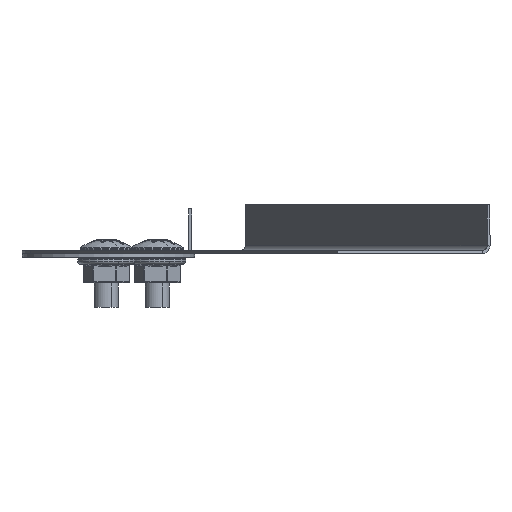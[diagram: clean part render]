
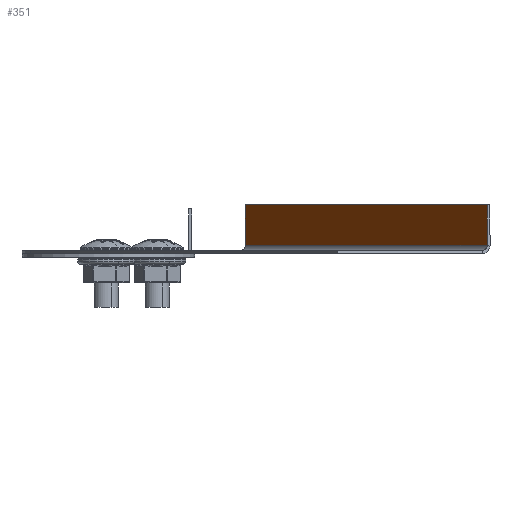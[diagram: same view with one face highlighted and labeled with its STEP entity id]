
A CAD part, left-side view. The second image highlights one B-rep face of the part: STEP entity #351.
In plain terms, the highlighted planar face has unit normal (-0.435, 0.9, 0) as drawn and (0, 1, 0) by its records, which use the part's own axes.
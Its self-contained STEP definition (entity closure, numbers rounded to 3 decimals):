
#167 = ORIENTED_EDGE ( 'NONE', *, *, #584, .T. ) ;
#181 = CARTESIAN_POINT ( 'NONE',  ( 137.5, -41.2, 12.153 ) ) ;
#217 = EDGE_CURVE ( 'NONE', #1285, #1806, #8438, .T. ) ;
#297 = CARTESIAN_POINT ( 'NONE',  ( 0., -41.2, -40.847 ) ) ;
#351 = ADVANCED_FACE ( 'NONE', ( #1544 ), #6760, .T. ) ;
#510 = EDGE_CURVE ( 'NONE', #3201, #5016, #4887, .T. ) ;
#584 = EDGE_CURVE ( 'NONE', #1806, #3201, #8304, .T. ) ;
#1007 = ORIENTED_EDGE ( 'NONE', *, *, #5744, .T. ) ;
#1024 = DIRECTION ( 'NONE',  ( 1., 0., 0. ) ) ;
#1244 = ORIENTED_EDGE ( 'NONE', *, *, #510, .T. ) ;
#1282 = CARTESIAN_POINT ( 'NONE',  ( 0., -41.2, 12.153 ) ) ;
#1285 = VERTEX_POINT ( 'NONE', #5888 ) ;
#1544 = FACE_OUTER_BOUND ( 'NONE', #3655, .T. ) ;
#1806 = VERTEX_POINT ( 'NONE', #8329 ) ;
#1963 = DIRECTION ( 'NONE',  ( -1., 0., 0. ) ) ;
#2118 = CARTESIAN_POINT ( 'NONE',  ( 137.5, -41.2, 12.153 ) ) ;
#3164 = VECTOR ( 'NONE', #6090, 1000. ) ;
#3201 = VERTEX_POINT ( 'NONE', #1282 ) ;
#3427 = DIRECTION ( 'NONE',  ( 1., 0., 0. ) ) ;
#3655 = EDGE_LOOP ( 'NONE', ( #1007, #6166, #167, #1244 ) ) ;
#3865 = CARTESIAN_POINT ( 'NONE',  ( 174.5, -41.2, 2.1 ) ) ;
#4155 = DIRECTION ( 'NONE',  ( 0., 1., 0. ) ) ;
#4755 = AXIS2_PLACEMENT_3D ( 'NONE', #6018, #4155, #3427 ) ;
#4887 = LINE ( 'NONE', #7515, #6838 ) ;
#4935 = DIRECTION ( 'NONE',  ( 0., 0., 1. ) ) ;
#5016 = VERTEX_POINT ( 'NONE', #181 ) ;
#5401 = LINE ( 'NONE', #2118, #3164 ) ;
#5744 = EDGE_CURVE ( 'NONE', #5016, #1285, #5401, .T. ) ;
#5888 = CARTESIAN_POINT ( 'NONE',  ( 137.5, -41.2, 2.1 ) ) ;
#6018 = CARTESIAN_POINT ( 'NONE',  ( 174.5, -41.2, -19.497 ) ) ;
#6090 = DIRECTION ( 'NONE',  ( 0., 0., -1. ) ) ;
#6166 = ORIENTED_EDGE ( 'NONE', *, *, #217, .T. ) ;
#6760 = PLANE ( 'NONE',  #4755 ) ;
#6838 = VECTOR ( 'NONE', #1024, 1000. ) ;
#7515 = CARTESIAN_POINT ( 'NONE',  ( 0., -41.2, 12.153 ) ) ;
#7794 = VECTOR ( 'NONE', #4935, 1000. ) ;
#7927 = VECTOR ( 'NONE', #1963, 1000. ) ;
#8304 = LINE ( 'NONE', #297, #7794 ) ;
#8329 = CARTESIAN_POINT ( 'NONE',  ( 0., -41.2, 2.1 ) ) ;
#8438 = LINE ( 'NONE', #3865, #7927 ) ;
